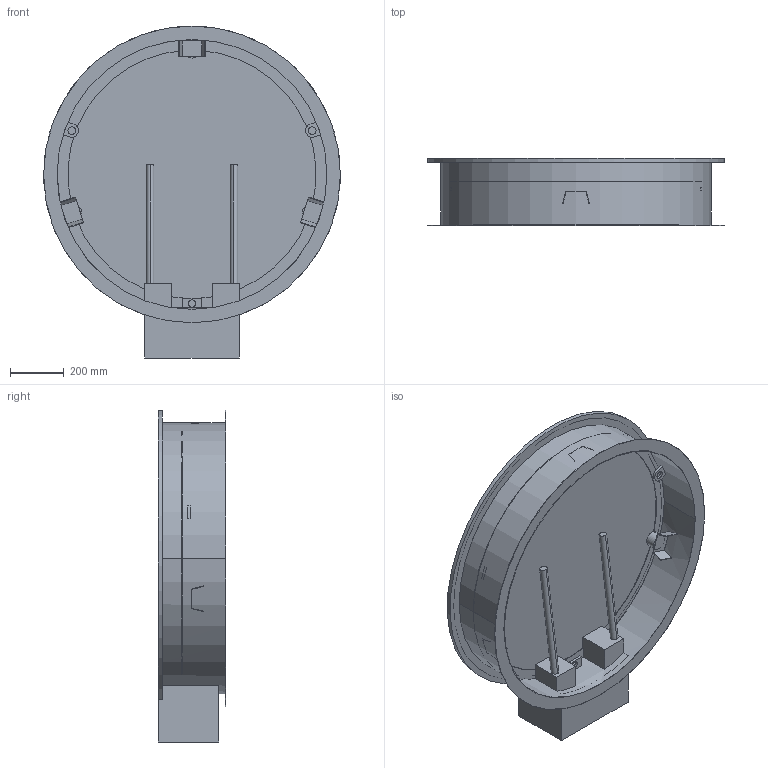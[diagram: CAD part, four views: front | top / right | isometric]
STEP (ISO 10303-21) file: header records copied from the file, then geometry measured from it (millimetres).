
FILE_DESCRIPTION((''),'2;1');
FILE_NAME('52342897','2025-02-04T07:58:58',('hrl'),('HUBER SE'),'CREO PARAMETRIC BY PTC INC, 2022162','CREO PARAMETRIC BY PTC INC, 2022162','');
FILE_SCHEMA(('AUTOMOTIVE_DESIGN { 1 0 10303 214 1 1 1 1 }'));
Length unit declared in the file: millimetre
Products named in the file (1): 52342897
Bounding box: 1100 x 250 x 1230.51 mm (x, y, z)
Volume: 85259783.2 mm3; surface area: 4652503.1 mm2
Topology: 4 solids, 4 shells, 128 faces, 312 edges, 208 vertices
Faces by surface type: plane 79, cylinder 49
Entity records: 4545 total; most frequent: CARTESIAN_POINT 764, DIRECTION 660, ORIENTED_EDGE 624, EDGE_CURVE 312, AXIS2_PLACEMENT_3D 242, VERTEX_POINT 208, VECTOR 176, LINE 176
